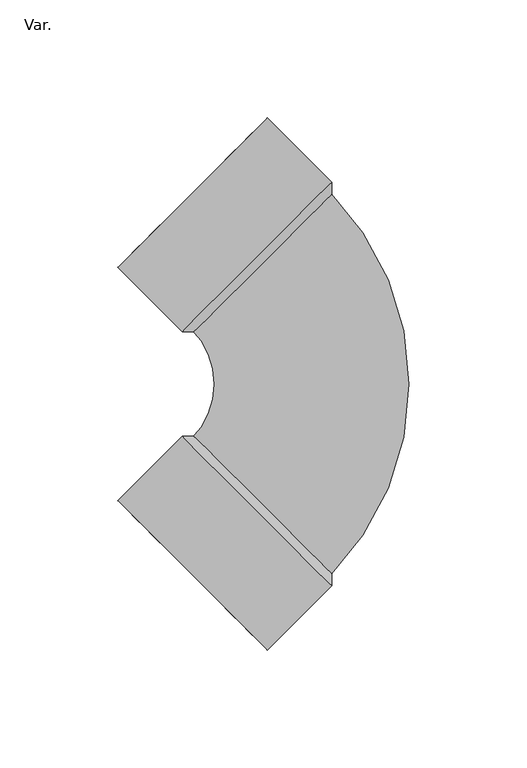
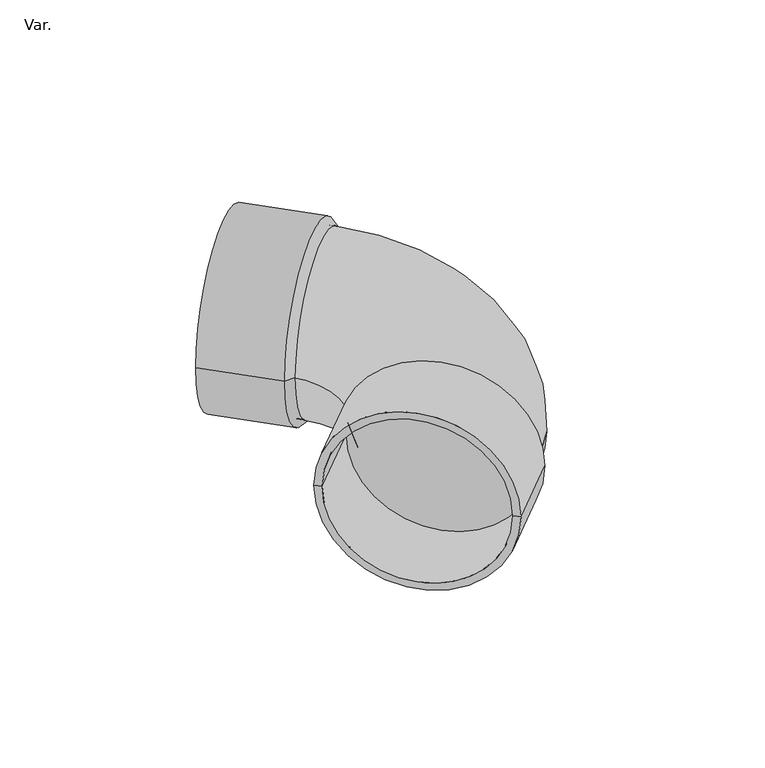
"""IFC4 building model written with IfcOpenShell, lengths in millimetres: pipe fitting geometry, PavcoWavin_UnionesDeTuberia_SanitariaZnoUsarCodo_CxC : Var.."""

from ifc_helpers import new_model, si_unit, point, frame, origin, place, context, project, spatial, polyline, circle_curve, ellipse_curve, trimmed, source, transform, mapped, element, save
from ifc_brep_helpers import plane_surface, cylinder_surface, revolved_surface, advanced_brep


def var_73ad6585(model_context):
    return source(origin(), model_context, "Body", "AdvancedBrep", [
        advanced_brep(
        [(-80.5536045, 22.1819397, 0.0), (-22.1819397, 80.5536045, 0.0), (-51.9193154, 110.2909802, 0.0), (-110.2909802, 51.9193154, 0.0), (-85.5811337, 22.1819397, 0.0), (-22.1819397, 85.5811337, 0.0), (-112.8047448, 49.4055508, 0.0), (-49.4055508, 112.8047448, 0.0)],
        [
            (0, 1, circle_curve(frame((-51.3677721, 51.3677721, 0.0), z_axis=(0.7071067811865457, -0.7071067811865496, 0.0), x_axis=(0.7071067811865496, 0.7071067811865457, 0.0)), 41.275)),
            (1, 2),
            (2, 3, circle_curve(frame((-81.1051478, 81.1051478, 0.0), z_axis=(-0.7071067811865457, 0.7071067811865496, 0.0), x_axis=(0.7071067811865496, 0.7071067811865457, 0.0)), 41.275)),
            (3, 0),
            (1, 0, circle_curve(frame((-51.3677721, 51.3677721, 0.0), z_axis=(0.7071067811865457, -0.7071067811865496, 0.0), x_axis=(0.7071067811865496, 0.7071067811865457, 0.0)), 41.275)),
            (3, 2, circle_curve(frame((-81.1051478, 81.1051478, 0.0), z_axis=(-0.7071067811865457, 0.7071067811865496, 0.0), x_axis=(0.7071067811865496, 0.7071067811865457, 0.0)), 41.275)),
            (4, 5, circle_curve(frame((-53.8815367, 53.8815367, 0.0), z_axis=(0.7071067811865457, -0.7071067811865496, 0.0), x_axis=(0.7071067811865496, 0.7071067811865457, 0.0)), 44.83)),
            (5, 1),
            (0, 4),
            (5, 4, circle_curve(frame((-53.8815367, 53.8815367, 0.0), z_axis=(0.7071067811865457, -0.7071067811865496, 0.0), x_axis=(0.7071067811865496, 0.7071067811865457, 0.0)), 44.83)),
            (6, 7, circle_curve(frame((-81.1051478, 81.1051478, 0.0), z_axis=(0.7071067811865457, -0.7071067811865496, 0.0), x_axis=(0.7071067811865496, 0.7071067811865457, 0.0)), 44.83)),
            (7, 5),
            (4, 6),
            (7, 6, circle_curve(frame((-81.1051478, 81.1051478, 0.0), z_axis=(0.7071067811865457, -0.7071067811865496, 0.0), x_axis=(0.7071067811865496, 0.7071067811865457, 0.0)), 44.83)),
            (2, 7),
            (6, 3),
        ],
        [
            revolved_surface(polyline([(-51.91931540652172, 110.29098019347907, 0.0), (-22.18193970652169, 80.55360449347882, 0.0)]), (1360.0173631, -1360.0173631, 0.0), (-0.7071067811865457, 0.7071067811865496, 0.0)),
            revolved_surface(polyline([(-22.1819397, 80.5536045, 0.0), (-22.1819397, 85.5811337, 0.0)]), (1360.0173631, -1360.0173631, 0.0), (-0.7071067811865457, 0.7071067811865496, 0.0)),
            cylinder_surface(frame((1360.0173631, -1360.0173631, 0.0), z_axis=(-0.7071067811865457, 0.7071067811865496, 0.0), x_axis=(0.7071067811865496, 0.7071067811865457, 0.0)), 44.83),
            plane_surface(frame((-81.1051478, 81.1051478, 0.0), z_axis=(-0.7071067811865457, 0.7071067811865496, 0.0), x_axis=(0.7071067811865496, 0.7071067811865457, 0.0))),
        ],
        [
            (0, [[1, 2, 3, 4]]),
            (0, [[5, -4, 6, -2]]),
            (1, [[7, 8, -1, 9]]),
            (1, [[10, -9, -5, -8]]),
            (2, [[11, 12, -7, 13]]),
            (2, [[14, -13, -10, -12]]),
            (3, [[-3, 15, -11, 16]]),
            (3, [[-6, -16, -14, -15]]),
        ],
    ),
        advanced_brep(
        [(-22.1819397, -80.5536045, 0.0), (-80.5536045, -22.1819397, 0.0), (-110.2909802, -51.9193154, 0.0), (-51.9193154, -110.2909802, 0.0), (-22.1819397, -85.5811337, 0.0), (-85.5811337, -22.1819397, 0.0), (-49.4055508, -112.8047448, 0.0), (-112.8047448, -49.4055508, 0.0)],
        [
            (0, 1, circle_curve(frame((-51.3677721, -51.3677721, 0.0), z_axis=(0.7071067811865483, 0.7071067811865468, 0.0), x_axis=(-0.7071067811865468, 0.7071067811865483, 0.0)), 41.275)),
            (1, 2),
            (2, 3, circle_curve(frame((-81.1051478, -81.1051478, 0.0), z_axis=(-0.7071067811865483, -0.7071067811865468, 0.0), x_axis=(-0.7071067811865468, 0.7071067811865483, 0.0)), 41.275)),
            (3, 0),
            (1, 0, circle_curve(frame((-51.3677721, -51.3677721, 0.0), z_axis=(0.7071067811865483, 0.7071067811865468, 0.0), x_axis=(-0.7071067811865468, 0.7071067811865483, 0.0)), 41.275)),
            (3, 2, circle_curve(frame((-81.1051478, -81.1051478, 0.0), z_axis=(-0.7071067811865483, -0.7071067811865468, 0.0), x_axis=(-0.7071067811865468, 0.7071067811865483, 0.0)), 41.275)),
            (4, 5, circle_curve(frame((-53.8815367, -53.8815367, 0.0), z_axis=(0.7071067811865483, 0.7071067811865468, 0.0), x_axis=(-0.7071067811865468, 0.7071067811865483, 0.0)), 44.83)),
            (5, 1),
            (0, 4),
            (5, 4, circle_curve(frame((-53.8815367, -53.8815367, 0.0), z_axis=(0.7071067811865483, 0.7071067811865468, 0.0), x_axis=(-0.7071067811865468, 0.7071067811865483, 0.0)), 44.83)),
            (6, 7, circle_curve(frame((-81.1051478, -81.1051478, 0.0), z_axis=(0.7071067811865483, 0.7071067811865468, 0.0), x_axis=(-0.7071067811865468, 0.7071067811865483, 0.0)), 44.83)),
            (7, 5),
            (4, 6),
            (7, 6, circle_curve(frame((-81.1051478, -81.1051478, 0.0), z_axis=(0.7071067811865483, 0.7071067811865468, 0.0), x_axis=(-0.7071067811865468, 0.7071067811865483, 0.0)), 44.83)),
            (2, 7),
            (6, 3),
        ],
        [
            revolved_surface(polyline([(-110.29098019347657, -51.919315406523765, 0.0), (-80.55360449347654, -22.181939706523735, 0.0)]), (1360.0173631, 1360.0173631, 0.0), (-0.7071067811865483, -0.7071067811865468, 0.0)),
            revolved_surface(polyline([(-80.5536045, -22.1819397, 0.0), (-85.5811337, -22.1819397, 0.0)]), (1360.0173631, 1360.0173631, 0.0), (-0.7071067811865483, -0.7071067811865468, 0.0)),
            cylinder_surface(frame((1360.0173631, 1360.0173631, 0.0), z_axis=(-0.7071067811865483, -0.7071067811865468, 0.0), x_axis=(-0.7071067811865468, 0.7071067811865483, 0.0)), 44.83),
            plane_surface(frame((-81.1051478, -81.1051478, 0.0), z_axis=(-0.7071067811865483, -0.7071067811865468, 0.0), x_axis=(-0.7071067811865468, 0.7071067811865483, 0.0))),
        ],
        [
            (0, [[1, 2, 3, 4]]),
            (0, [[5, -4, 6, -2]]),
            (1, [[7, 8, -1, 9]]),
            (1, [[10, -9, -5, -8]]),
            (2, [[11, 12, -7, 13]]),
            (2, [[14, -13, -10, -12]]),
            (3, [[-3, 15, -11, 16]]),
            (3, [[-6, -16, -14, -15]]),
        ],
    ),
        advanced_brep(
        [(-24.6957043, -83.0673691, 0.0), (-83.0673691, -24.6957043, 0.0), (-23.2814908, -81.6531556, 0.0), (-81.6531556, -23.2814908, 0.0), (-23.2814908, 81.6531556, 0.0), (-81.6531556, 23.2814908, 0.0), (-24.6957043, 83.0673691, 0.0), (-83.0673691, 24.6957043, 0.0), (-53.8815367, 53.8815367, 0.0)],
        [
            (0, 1, circle_curve(frame((-53.8815367, -53.8815367, 0.0), z_axis=(-0.7071067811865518, -0.7071067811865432, 0.0), x_axis=(-0.7071067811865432, 0.7071067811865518, 0.0)), 41.275)),
            (1, 0, circle_curve(frame((-53.8815367, -53.8815367, 0.0), z_axis=(-0.7071067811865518, -0.7071067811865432, 0.0), x_axis=(-0.7071067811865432, 0.7071067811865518, 0.0)), 41.275)),
            (0, 2),
            (2, 3, circle_curve(frame((-52.4673232, -52.4673232, 0.0), z_axis=(-0.7071067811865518, -0.7071067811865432, 0.0), x_axis=(-0.7071067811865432, 0.7071067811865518, 0.0)), 41.275)),
            (3, 1),
            (3, 2, circle_curve(frame((-52.4673232, -52.4673232, 0.0), z_axis=(-0.7071067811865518, -0.7071067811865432, 0.0), x_axis=(-0.7071067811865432, 0.7071067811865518, 0.0)), 41.275)),
            (2, 4, circle_curve(frame((-104.9346463, 0.0, 0.0), z_axis=(0.0, 0.0, 1.0), x_axis=(0.7071067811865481, -0.7071067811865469, 0.0)), 115.475)),
            (4, 5, circle_curve(frame((-52.4673232, 52.4673232, 0.0), z_axis=(0.7071067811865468, -0.7071067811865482, 0.0), x_axis=(-0.7071067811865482, -0.7071067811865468, 0.0)), 41.275)),
            (5, 3, circle_curve(frame((-104.9346463, 0.0, 0.0), z_axis=(0.0, 0.0, -1.0), x_axis=(0.7071067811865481, -0.7071067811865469, 0.0)), 32.925)),
            (5, 4, circle_curve(frame((-52.4673232, 52.4673232, 0.0), z_axis=(0.7071067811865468, -0.7071067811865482, 0.0), x_axis=(-0.7071067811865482, -0.7071067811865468, 0.0)), 41.275)),
            (6, 7, circle_curve(frame((-53.8815367, 53.8815367, 0.0), z_axis=(-0.7071067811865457, 0.7071067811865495, 0.0), x_axis=(-0.7071067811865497, -0.7071067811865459, 0.0)), 41.275)),
            (7, 8),
            (8, 6),
            (7, 6, circle_curve(frame((-53.8815367, 53.8815367, 0.0), z_axis=(-0.7071067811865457, 0.7071067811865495, 0.0), x_axis=(-0.7071067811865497, -0.7071067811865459, 0.0)), 41.275)),
            (6, 4),
            (5, 7),
        ],
        [
            plane_surface(frame((-53.8815367, -53.8815367, 0.0), z_axis=(-0.7071067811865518, -0.7071067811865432, 0.0), x_axis=(0.0, 0.0, 1.0))),
            cylinder_surface(frame((-53.8815367, -53.8815367, 0.0), z_axis=(-0.7071067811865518, -0.7071067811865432, 0.0), x_axis=(-0.7071067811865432, 0.7071067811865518, 0.0)), 41.275),
            revolved_surface(trimmed(ellipse_curve(frame((-52.4673232, -52.4673232, 0.0), z_axis=(-0.707106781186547, -0.707106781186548, 0.0), x_axis=(-0.707106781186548, 0.707106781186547, 0.0)), 41.275, 41.275), [point((-23.2814908, -81.6531556, 0.0))], [point((-81.6531556, -23.2814908, 0.0))], True, "CARTESIAN"), (-104.9346463, 0.0, 0.0), (0.0, 0.0, 1.0)),
            revolved_surface(trimmed(ellipse_curve(frame((-52.4673232, -52.4673232, 0.0), z_axis=(-0.707106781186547, -0.707106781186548, 0.0), x_axis=(-0.707106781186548, 0.707106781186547, 0.0)), 41.275, 41.275), [point((-81.6531556, -23.2814908, 0.0))], [point((-23.2814908, -81.6531556, 0.0))], True, "CARTESIAN"), (-104.9346463, 0.0, 0.0), (0.0, 0.0, 1.0)),
            plane_surface(frame((-53.8815367, 53.8815367, 0.0), z_axis=(-0.7071067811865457, 0.7071067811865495, 0.0), x_axis=(-0.7071067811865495, -0.7071067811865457, 0.0))),
            cylinder_surface(frame((0.0, 0.0, 0.0), z_axis=(0.7071067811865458, -0.7071067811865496, 0.0), x_axis=(-0.7071067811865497, -0.7071067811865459, 0.0)), 41.275),
        ],
        [
            (0, [[1, 2]]),
            (1, [[-1, 3, 4, 5]]),
            (1, [[-2, -5, 6, -3]]),
            (2, [[-4, 7, 8, 9]]),
            (3, [[-6, -9, 10, -7]]),
            (4, [[11, 12, 13]]),
            (4, [[-12, 14, -13]]),
            (5, [[-11, 15, -10, 16]]),
            (5, [[-14, -16, -8, -15]]),
        ],
    ),
    ])


if __name__ == "__main__":
    model = new_model("IFC4")
    model_context = context("Model", 3, world=origin())
    ifc_project = project(units=[si_unit("LENGTHUNIT", "METRE", prefix="MILLI")], contexts=[model_context])
    site = spatial("IfcSite", under=ifc_project)
    building = spatial("IfcBuilding", under=site)
    placement = place(None, origin())
    var_shape = var_73ad6585(model_context)
    element("IfcPipeFitting", 1, ObjectType="PavcoWavin_UnionesDeTuberia_SanitariaZnoUsarCodo_CxC : Var.", at=placement, inside=building, context=model_context, shape_type="MappedRepresentation", body=[
        mapped(var_shape, transform((0.0, 0.0, 0.0), x_axis=(1.0, 0.0, 0.0), y_axis=(0.0, 1.0, 0.0), z_axis=(0.0, 0.0, 1.0))),
    ])
    save(model, "model.ifc")
